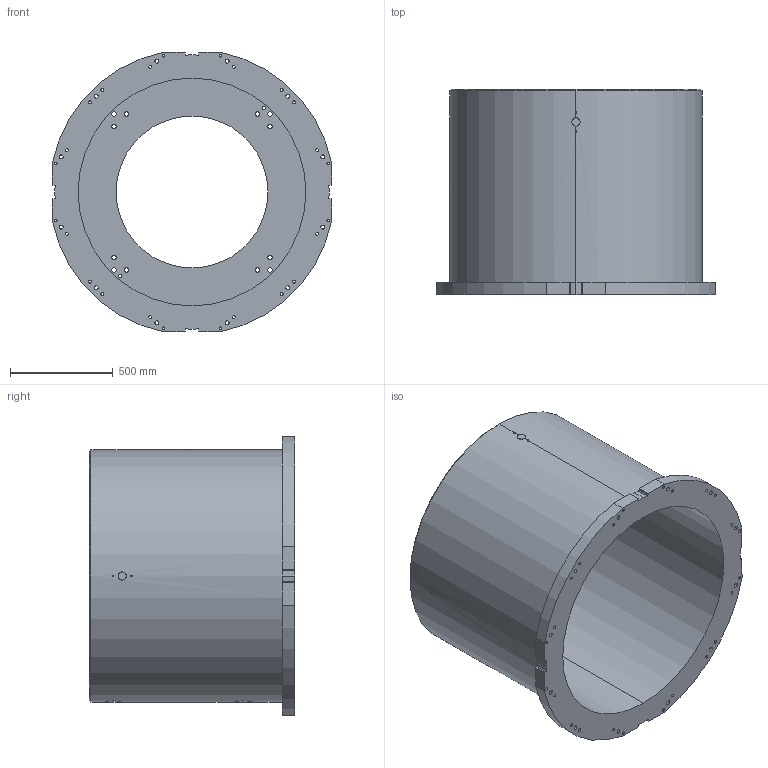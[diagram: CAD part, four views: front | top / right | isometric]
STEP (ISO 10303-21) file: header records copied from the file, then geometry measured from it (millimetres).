
FILE_DESCRIPTION (( 'STEP AP214' ), '1' );
FILE_NAME ('T-1000.STEP', '2024-01-24T12:36:13', ( '' ), ( '' ), 'SwSTEP 2.0', 'SolidWorks 2022', '' );
FILE_SCHEMA (( 'AUTOMOTIVE_DESIGN' ));
Length unit declared in the file: millimetre
Products named in the file (1): T-1000
Bounding box: 1360 x 1000 x 1360 mm (x, y, z)
Volume: 268650846.5 mm3; surface area: 9584970.3 mm2
Topology: 1 solids, 1 shells, 235 faces, 661 edges, 440 vertices
Faces by surface type: cylinder 181, plane 28, bspline 24, cone 2
Entity records: 13615 total; most frequent: CARTESIAN_POINT 6304, ORIENTED_EDGE 1322, DIRECTION 1177, EDGE_CURVE 661, AXIS2_PLACEMENT_3D 466, VERTEX_POINT 440, EDGE_LOOP 349, CIRCLE 254
